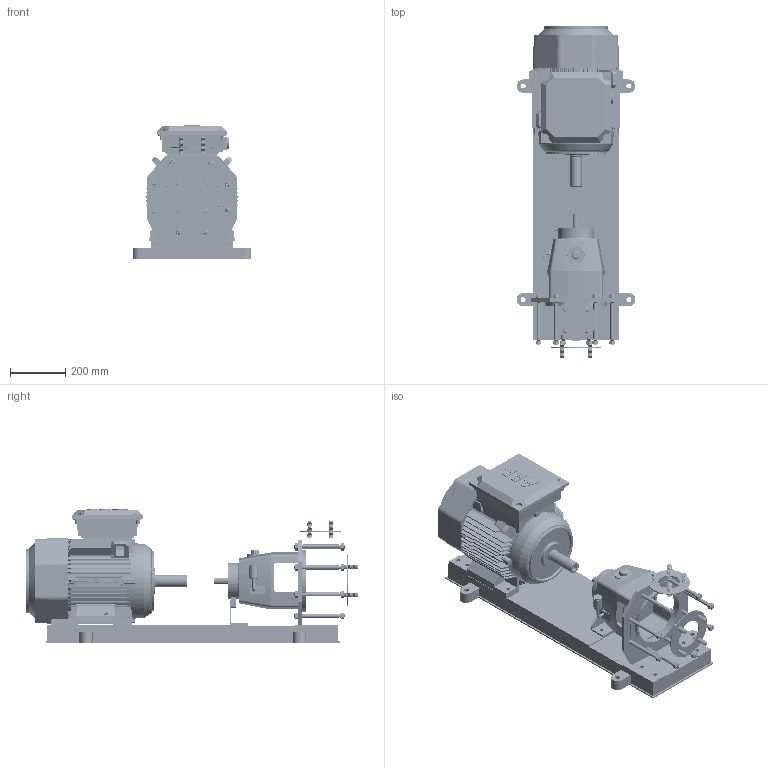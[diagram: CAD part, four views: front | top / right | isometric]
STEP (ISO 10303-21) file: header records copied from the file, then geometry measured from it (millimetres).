
FILE_DESCRIPTION((''),'2;1');
FILE_NAME('KSI 40-200--160 frame.stp','2010-08-04T14:06:18',(''),(''),'AutoCAD STEP 2000i','AutoCAD 2000i',', , ');
FILE_SCHEMA(('CONFIG_CONTROL_DESIGN'));
Length unit declared in the file: millimetre
Products named in the file (5): KSI 40-200--160 FRAME A; Motor; M3BP160MLA2-4P & MLB2 & MLC2 (short); AnyA; Any
Assembly tree (2 placements, depth 2):
  KSI 40-200--160 FRAME A
    Motor
    M3BP160MLA2-4P & MLB2 & MLC2 (short)
  AnyA
  Any
Bounding box: 432 x 1205.6 x 485.71 mm (x, y, z)
Volume: 63253778.2 mm3; surface area: 3267385.4 mm2
Topology: 41 solids, 41 shells, 7126 faces, 17776 edges, 10813 vertices
Faces by surface type: cone 2438, torus 2246, cylinder 1236, plane 872, bspline 334
Entity records: 220353 total; most frequent: CARTESIAN_POINT 44837, DIRECTION 41245, ORIENTED_EDGE 35711, AXIS2_PLACEMENT_3D 17962, EDGE_CURVE 17929, CIRCLE 11130, VERTEX_POINT 10961, EDGE_LOOP 7353
